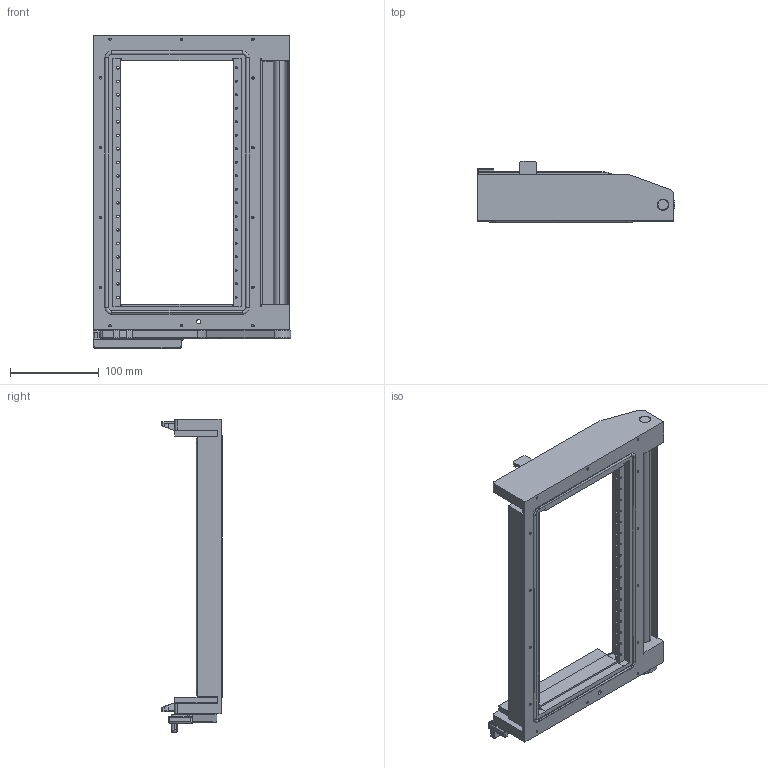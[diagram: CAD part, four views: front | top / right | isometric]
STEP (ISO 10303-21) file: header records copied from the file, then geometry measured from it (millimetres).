
FILE_DESCRIPTION (( 'STEP AP214' ), '1' );
FILE_NAME ('310120168.STEP', '2013-02-08T16:15:48', ( 'VPC Computer Systems' ), ( 'Virginia Panel Corporation' ), 'SwSTEP 2.0', 'SolidWorks 2012', '' );
FILE_SCHEMA (( 'AUTOMOTIVE_DESIGN' ));
Length unit declared in the file: inch
Products named in the file (1): 310120168
Bounding box: 223.25 x 68.61 x 353.24 mm (x, y, z)
Volume: 921851.5 mm3; surface area: 259769.5 mm2
Topology: 5 solids, 7 shells, 600 faces, 1606 edges, 1018 vertices
Faces by surface type: cylinder 268, plane 259, torus 35, cone 30, sphere 5, bspline 3
Entity records: 18903 total; most frequent: CARTESIAN_POINT 3391, DIRECTION 3330, ORIENTED_EDGE 3140, EDGE_CURVE 1570, AXIS2_PLACEMENT_3D 1179, VERTEX_POINT 1018, LINE 972, VECTOR 972
